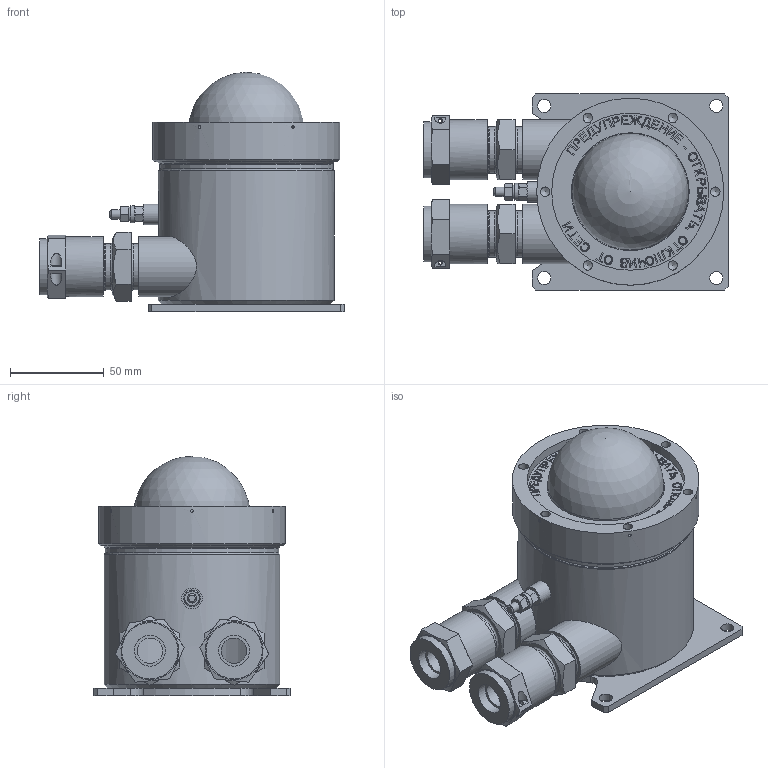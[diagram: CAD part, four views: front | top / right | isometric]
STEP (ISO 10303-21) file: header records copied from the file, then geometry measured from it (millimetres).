
FILE_DESCRIPTION(('STEP AP242'), '1');
FILE_NAME('908.3182.00.000捘 俜謷飶樥罻', '', ('UNSPECIFIED'), ('UNSPECIFIED'), 'ASCON STEP Converter 1.6', 'ASCON Math Kernel', '');
FILE_SCHEMA(('AP242_MANAGED_MODEL_BASED_3D_ENGINEERING_MIM_LF { 1 0 10303 442 1 1 4 }'));
Length unit declared in the file: millimetre
Bounding box: 163 x 105 x 127.9 mm (x, y, z)
Volume: 423650.4 mm3; surface area: 136642.7 mm2
Topology: 5 solids, 5 shells, 1448 faces, 3976 edges, 2627 vertices
Faces by surface type: cylinder 755, plane 614, cone 58, torus 16, sphere 5
Full cylindrical faces by diameter (mm): 1.5 x6, 2 x2, 2.5 x3, 4.134 x3, 4.5 x2, 5 x9, 5.3 x2, 5.5 x2, 6 x5, 7 x4, 9 x3, 11 x1, 13.6 x2, 14 x2, 16.5 x4, 24.5 x2, 24.8 x4, 25.376 x2, 27 x2, 30 x2, 32 x4, 32.5 x2, 38 x1, 42 x1, 60 x1, 62 x1, 63 x1, 84 x2, 87 x1, 92.8 x1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
Entity records: 61058 total; most frequent: CARTESIAN_POINT 11885, DIRECTION 8203, ORIENTED_EDGE 7598, EDGE_CURVE 3799, AXIS2_PLACEMENT_3D 3077, VERTEX_POINT 2616, LINE 2049, VECTOR 2049
